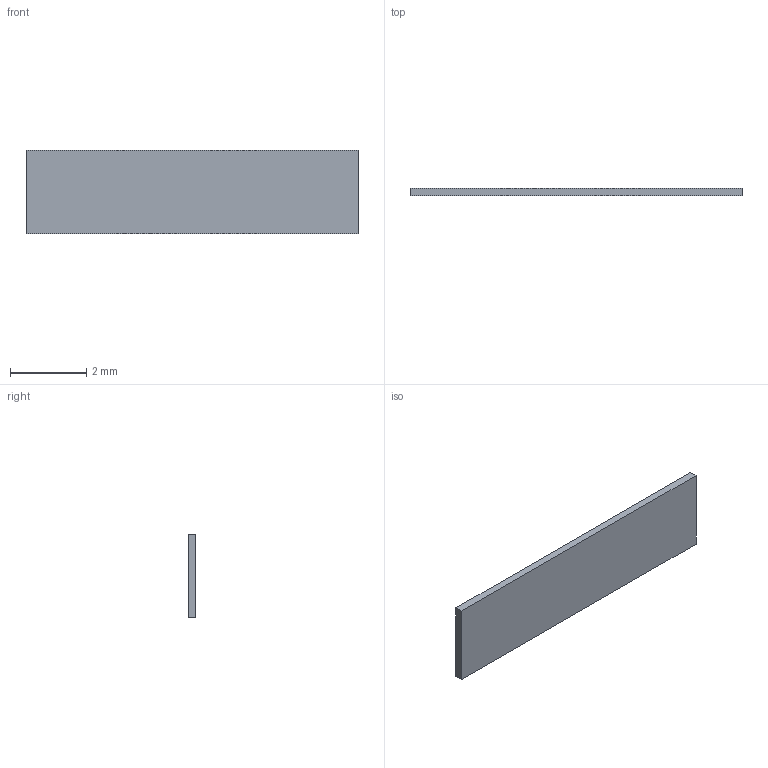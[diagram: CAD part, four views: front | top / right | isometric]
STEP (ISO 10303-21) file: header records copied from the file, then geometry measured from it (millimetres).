
FILE_DESCRIPTION(('Open CASCADE Model'),'2;1');
FILE_NAME('Open CASCADE Shape Model','2026-09-15T13:37:42',('Author'),( 'Open CASCADE'),'Open CASCADE STEP processor 7.7','Open CASCADE 7.7' ,'Unknown');
FILE_SCHEMA(('AUTOMOTIVE_DESIGN { 1 0 10303 214 1 1 1 1 }'));
Length unit declared in the file: millimetre
Products named in the file (1): Open CASCADE STEP translator 7.7 12
Bounding box: 8.7 x 0.2 x 2.2 mm (x, y, z)
Volume: 3.8 mm3; surface area: 42.6 mm2
Topology: 1 solids, 1 shells, 6 faces, 12 edges, 8 vertices
Faces by surface type: plane 6
Entity records: 322 total; most frequent: CARTESIAN_POINT 51, DIRECTION 50, LINE 36, VECTOR 36, ORIENTED_EDGE 24, PCURVE 24, DEFINITIONAL_REPRESENTATION 24, EDGE_CURVE 12
